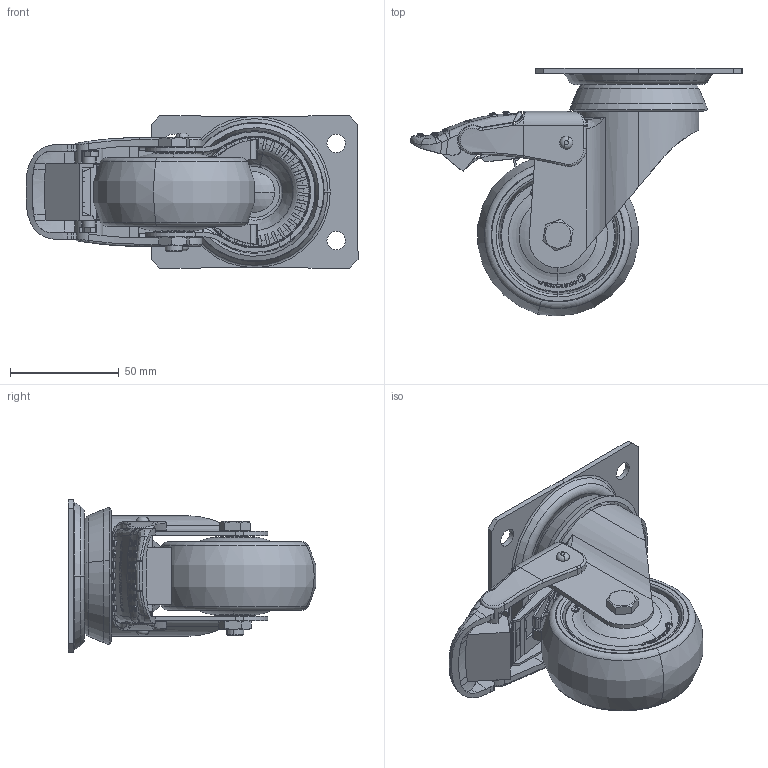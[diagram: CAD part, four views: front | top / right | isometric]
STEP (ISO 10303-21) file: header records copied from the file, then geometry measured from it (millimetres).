
FILE_DESCRIPTION (( 'STEP AP203' ), '1' );
FILE_NAME ('300865_STEP.STEP', '2013-07-30T10:18:42', ( 'admin' ), ( 'Hewlett-Packard Company' ), 'SwSTEP 2.0', 'SolidWorks 2011', '' );
FILE_SCHEMA (( 'CONFIG_CONTROL_DESIGN' ));
Length unit declared in the file: millimetre
Products named in the file (1): 300865_STEP
Bounding box: 152.46 x 113.74 x 70 mm (x, y, z)
Volume: 169626.2 mm3; surface area: 125749 mm2
Topology: 19 solids, 19 shells, 2233 faces, 6089 edges, 3950 vertices
Faces by surface type: plane 1095, cylinder 466, bspline 423, torus 152, cone 91, sphere 6
Entity records: 99119 total; most frequent: CARTESIAN_POINT 47302, ORIENTED_EDGE 12164, DIRECTION 8855, EDGE_CURVE 6082, VERTEX_POINT 3950, AXIS2_PLACEMENT_3D 3093, VECTOR 2669, LINE 2669
